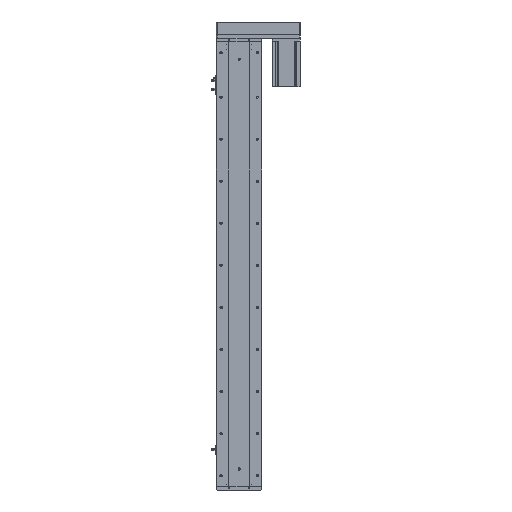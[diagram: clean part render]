
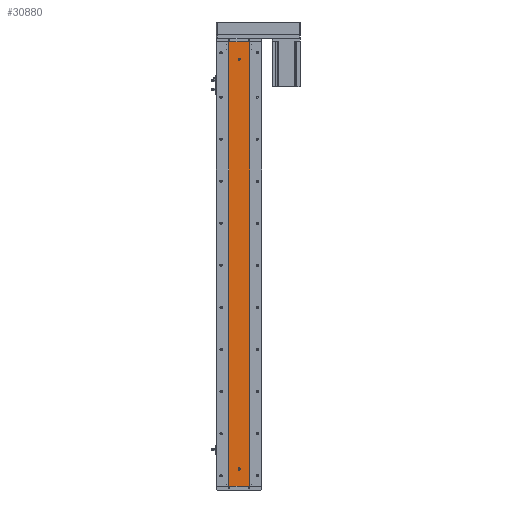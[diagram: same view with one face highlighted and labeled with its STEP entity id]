
A CAD part, left-side view. The second image highlights one B-rep face of the part: STEP entity #30880.
In plain terms, the highlighted planar face has unit normal (-1, 0, 0).
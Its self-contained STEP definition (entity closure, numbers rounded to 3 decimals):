
#760 = CIRCLE ( 'NONE', #35812, 3. ) ;
#771 = DIRECTION ( 'NONE',  ( 0., -1., 0. ) ) ;
#1488 = DIRECTION ( 'NONE',  ( 0., 0., -1. ) ) ;
#2373 = CARTESIAN_POINT ( 'NONE',  ( -24.994, 29.785, 1269. ) ) ;
#2791 = DIRECTION ( 'NONE',  ( 0., 0., 1. ) ) ;
#3274 = CARTESIAN_POINT ( 'NONE',  ( -24.994, 0., 1222. ) ) ;
#4435 = AXIS2_PLACEMENT_3D ( 'NONE', #8294, #35287, #12151 ) ;
#5949 = DIRECTION ( 'NONE',  ( 0., -1., 0. ) ) ;
#6369 = VERTEX_POINT ( 'NONE', #44220 ) ;
#6597 = AXIS2_PLACEMENT_3D ( 'NONE', #7126, #34149, #10988 ) ;
#7126 = CARTESIAN_POINT ( 'NONE',  ( -24.994, 29.785, 1269. ) ) ;
#8294 = CARTESIAN_POINT ( 'NONE',  ( -24.994, 0., 50. ) ) ;
#9299 = CARTESIAN_POINT ( 'NONE',  ( -24.994, 29.785, 1269. ) ) ;
#9778 = FACE_BOUND ( 'NONE', #30533, .T. ) ;
#10302 = CIRCLE ( 'NONE', #19012, 3. ) ;
#10949 = ORIENTED_EDGE ( 'NONE', *, *, #14041, .F. ) ;
#10960 = ORIENTED_EDGE ( 'NONE', *, *, #39551, .F. ) ;
#10988 = DIRECTION ( 'NONE',  ( 0., 0., -1. ) ) ;
#11656 = CARTESIAN_POINT ( 'NONE',  ( -24.994, 29.785, 0. ) ) ;
#11709 = ORIENTED_EDGE ( 'NONE', *, *, #35254, .F. ) ;
#12151 = DIRECTION ( 'NONE',  ( 0., 0., 1. ) ) ;
#13531 = VERTEX_POINT ( 'NONE', #41506 ) ;
#14041 = EDGE_CURVE ( 'NONE', #43252, #13531, #44327, .T. ) ;
#14229 = EDGE_LOOP ( 'NONE', ( #24436, #45037, #11709, #47538 ) ) ;
#14331 = CARTESIAN_POINT ( 'NONE',  ( -24.994, 0., 50. ) ) ;
#14933 = EDGE_CURVE ( 'NONE', #41157, #33385, #47824, .T. ) ;
#15974 = CARTESIAN_POINT ( 'NONE',  ( -24.994, -29.785, 1269. ) ) ;
#16374 = VERTEX_POINT ( 'NONE', #15974 ) ;
#17086 = CARTESIAN_POINT ( 'NONE',  ( -24.994, 0., 1219. ) ) ;
#18223 = DIRECTION ( 'NONE',  ( 0., 0., 1. ) ) ;
#18229 = VERTEX_POINT ( 'NONE', #32772 ) ;
#19012 = AXIS2_PLACEMENT_3D ( 'NONE', #14331, #41276, #18223 ) ;
#19874 = ORIENTED_EDGE ( 'NONE', *, *, #32174, .F. ) ;
#20087 = FACE_BOUND ( 'NONE', #45082, .T. ) ;
#20931 = DIRECTION ( 'NONE',  ( 0., 0., 1. ) ) ;
#23598 = EDGE_CURVE ( 'NONE', #16374, #6369, #38960, .T. ) ;
#23987 = DIRECTION ( 'NONE',  ( 0., 0., -1. ) ) ;
#24436 = ORIENTED_EDGE ( 'NONE', *, *, #44504, .T. ) ;
#25700 = CARTESIAN_POINT ( 'NONE',  ( -24.994, 29.785, 1269. ) ) ;
#26013 = DIRECTION ( 'NONE',  ( -1., 0., 0. ) ) ;
#27021 = ORIENTED_EDGE ( 'NONE', *, *, #33443, .F. ) ;
#27868 = CARTESIAN_POINT ( 'NONE',  ( -24.994, -29.785, 1269. ) ) ;
#27879 = CARTESIAN_POINT ( 'NONE',  ( -24.994, 29.785, 0. ) ) ;
#28015 = CARTESIAN_POINT ( 'NONE',  ( -24.994, 0., 47. ) ) ;
#28718 = VECTOR ( 'NONE', #23987, 1000. ) ;
#30533 = EDGE_LOOP ( 'NONE', ( #19874, #27021 ) ) ;
#30880 = ADVANCED_FACE ( 'NONE', ( #20087, #9778, #39347 ), #37847, .F. ) ;
#31194 = AXIS2_PLACEMENT_3D ( 'NONE', #49067, #26013, #2791 ) ;
#31960 = VERTEX_POINT ( 'NONE', #28015 ) ;
#32174 = EDGE_CURVE ( 'NONE', #18229, #31960, #10302, .T. ) ;
#32772 = CARTESIAN_POINT ( 'NONE',  ( -24.994, 0., 53. ) ) ;
#33385 = VERTEX_POINT ( 'NONE', #11656 ) ;
#33443 = EDGE_CURVE ( 'NONE', #31960, #18229, #35461, .T. ) ;
#34077 = LINE ( 'NONE', #2373, #43121 ) ;
#34149 = DIRECTION ( 'NONE',  ( 1., 0., 0. ) ) ;
#35254 = EDGE_CURVE ( 'NONE', #41157, #16374, #34077, .T. ) ;
#35287 = DIRECTION ( 'NONE',  ( -1., 0., 0. ) ) ;
#35461 = CIRCLE ( 'NONE', #4435, 3. ) ;
#35812 = AXIS2_PLACEMENT_3D ( 'NONE', #17086, #44040, #20931 ) ;
#37847 = PLANE ( 'NONE',  #6597 ) ;
#38960 = LINE ( 'NONE', #27868, #28718 ) ;
#39264 = VECTOR ( 'NONE', #771, 1000. ) ;
#39347 = FACE_OUTER_BOUND ( 'NONE', #14229, .T. ) ;
#39551 = EDGE_CURVE ( 'NONE', #13531, #43252, #760, .T. ) ;
#41157 = VERTEX_POINT ( 'NONE', #25700 ) ;
#41276 = DIRECTION ( 'NONE',  ( -1., 0., 0. ) ) ;
#41506 = CARTESIAN_POINT ( 'NONE',  ( -24.994, 0., 1216. ) ) ;
#43121 = VECTOR ( 'NONE', #5949, 1000. ) ;
#43252 = VERTEX_POINT ( 'NONE', #3274 ) ;
#44040 = DIRECTION ( 'NONE',  ( -1., 0., 0. ) ) ;
#44220 = CARTESIAN_POINT ( 'NONE',  ( -24.994, -29.785, 0. ) ) ;
#44327 = CIRCLE ( 'NONE', #31194, 3. ) ;
#44504 = EDGE_CURVE ( 'NONE', #33385, #6369, #49528, .T. ) ;
#45037 = ORIENTED_EDGE ( 'NONE', *, *, #23598, .F. ) ;
#45082 = EDGE_LOOP ( 'NONE', ( #10949, #10960 ) ) ;
#46634 = VECTOR ( 'NONE', #1488, 1000. ) ;
#47538 = ORIENTED_EDGE ( 'NONE', *, *, #14933, .T. ) ;
#47824 = LINE ( 'NONE', #9299, #46634 ) ;
#49067 = CARTESIAN_POINT ( 'NONE',  ( -24.994, 0., 1219. ) ) ;
#49528 = LINE ( 'NONE', #27879, #39264 ) ;
